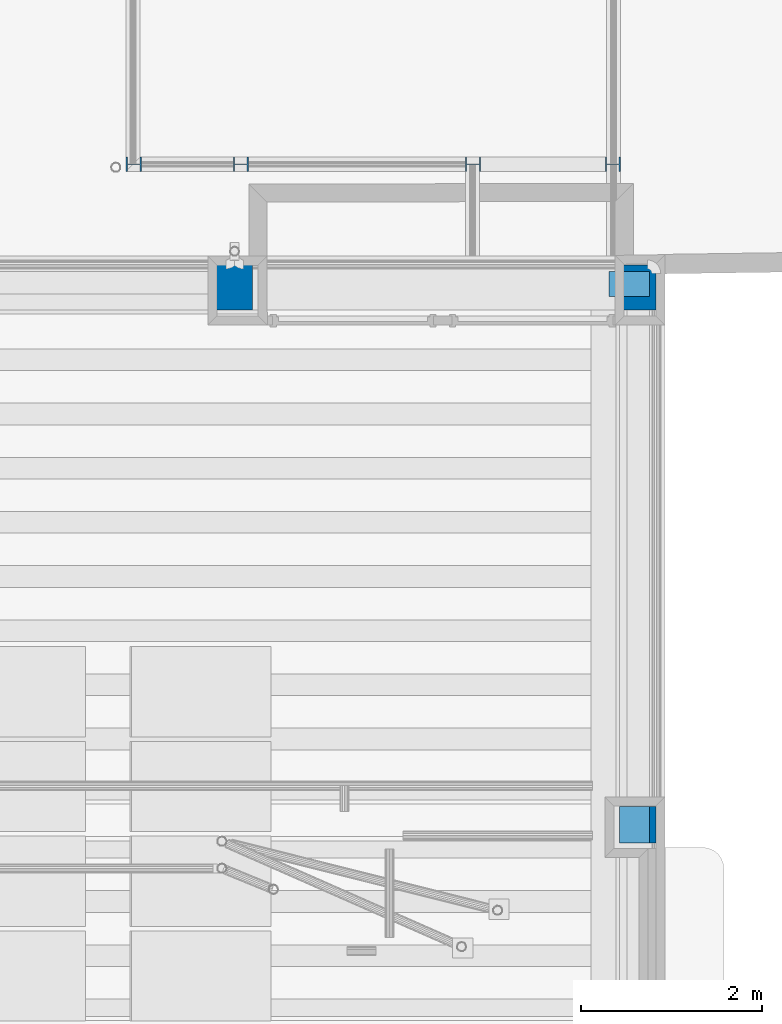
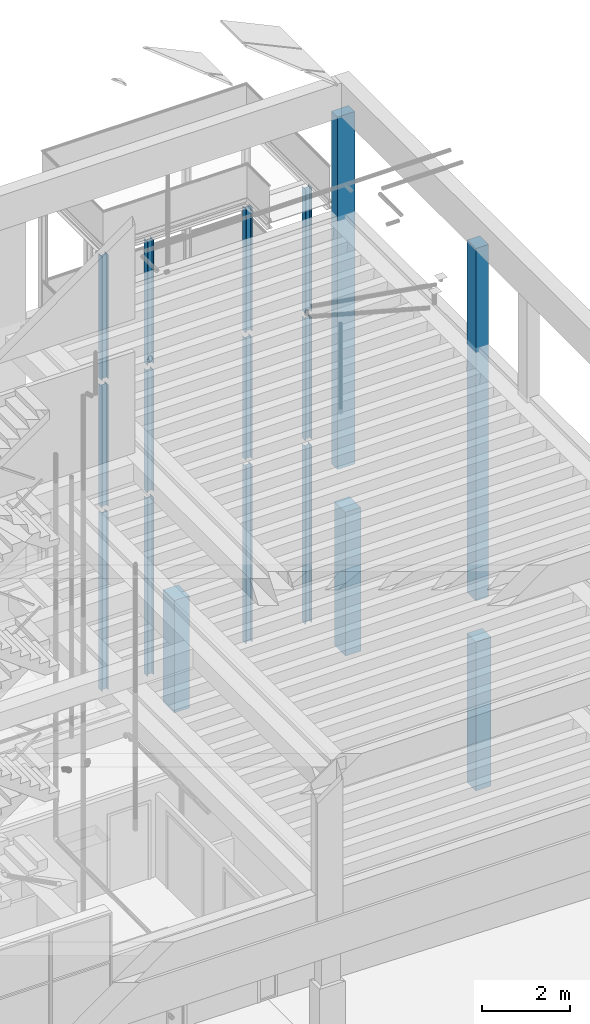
# One storey, part 2 of 106: 17 columns.
"""IFC2X3 building model written with IfcOpenShell, lengths in metres."""

from ifc_helpers import new_model, entity, si_unit, converted_unit, derived_unit, money_unit, direction, frame, frame_2d, origin_with_axes, place, context, subcontext, project, spatial, polyline, rectangle, outline, extrude, material, type_object, element, save


model = new_model("IFC2X3")

# Units and contexts
model_context = context("Model", 3, precision=1e-05, world=origin_with_axes(), true_north=direction((0.0, 1.0)))
body_context = subcontext(model_context, "Body", "Model", "MODEL_VIEW", scale=1.0)
ifc_project = project(units=[si_unit("LENGTHUNIT", "METRE"), si_unit("AREAUNIT", "SQUARE_METRE"), si_unit("VOLUMEUNIT", "CUBIC_METRE"), si_unit("ABSORBEDDOSEUNIT", "GRAY"), si_unit("AMOUNTOFSUBSTANCEUNIT", "MOLE"), si_unit("DOSEEQUIVALENTUNIT", "SIEVERT"), si_unit("ELECTRICCAPACITANCEUNIT", "FARAD"), si_unit("ELECTRICCHARGEUNIT", "COULOMB"), si_unit("ELECTRICCONDUCTANCEUNIT", "SIEMENS"), si_unit("ELECTRICCURRENTUNIT", "AMPERE"), si_unit("ELECTRICRESISTANCEUNIT", "OHM"), si_unit("ELECTRICVOLTAGEUNIT", "VOLT"), si_unit("ENERGYUNIT", "JOULE"), si_unit("FORCEUNIT", "NEWTON"), si_unit("FREQUENCYUNIT", "HERTZ"), si_unit("ILLUMINANCEUNIT", "LUX"), si_unit("INDUCTANCEUNIT", "HENRY"), si_unit("LUMINOUSFLUXUNIT", "LUMEN"), si_unit("LUMINOUSINTENSITYUNIT", "CANDELA"), si_unit("MAGNETICFLUXDENSITYUNIT", "TESLA"), si_unit("MAGNETICFLUXUNIT", "WEBER"), si_unit("MASSUNIT", "GRAM"), converted_unit("PLANEANGLEUNIT", "degree", entity("IfcReal", 0.0174532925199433), si_unit("PLANEANGLEUNIT", "RADIAN"), dimensions=[0, 0, 0, 0, 0, 0, 0]), si_unit("POWERUNIT", "WATT"), si_unit("PRESSUREUNIT", "PASCAL"), si_unit("RADIOACTIVITYUNIT", "BECQUEREL"), si_unit("SOLIDANGLEUNIT", "STERADIAN"), si_unit("THERMODYNAMICTEMPERATUREUNIT", "KELVIN"), si_unit("TIMEUNIT", "SECOND"), derived_unit("ACCELERATIONUNIT", [(si_unit("LENGTHUNIT", "METRE"), 1), (si_unit("TIMEUNIT", "SECOND"), -2)]), derived_unit("ANGULARVELOCITYUNIT", [(converted_unit("PLANEANGLEUNIT", "degree", entity("IfcReal", 0.0174532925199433), si_unit("PLANEANGLEUNIT", "RADIAN"), dimensions=[0, 0, 0, 0, 0, 0, 0]), 1), (si_unit("TIMEUNIT", "SECOND"), -1)]), derived_unit("CURVATUREUNIT", [(converted_unit("PLANEANGLEUNIT", "degree", entity("IfcReal", 0.0174532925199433), si_unit("PLANEANGLEUNIT", "RADIAN"), dimensions=[0, 0, 0, 0, 0, 0, 0]), 1), (si_unit("LENGTHUNIT", "METRE"), -1)]), derived_unit("DYNAMICVISCOSITYUNIT", [(si_unit("PRESSUREUNIT", "PASCAL"), 1), (si_unit("TIMEUNIT", "SECOND"), 1)]), derived_unit("HEATFLUXDENSITYUNIT", [(si_unit("POWERUNIT", "WATT"), 1), (si_unit("LENGTHUNIT", "METRE"), -2)]), derived_unit("HEATINGVALUEUNIT", [(si_unit("ENERGYUNIT", "JOULE"), 1), (si_unit("MASSUNIT", "GRAM"), -1)]), derived_unit("INTEGERCOUNTRATEUNIT", [(si_unit("TIMEUNIT", "SECOND"), -1)]), derived_unit("IONCONCENTRATIONUNIT", [(si_unit("MASSUNIT", "GRAM"), 1), (si_unit("VOLUMEUNIT", "CUBIC_METRE"), -1)]), derived_unit("ISOTHERMALMOISTURECAPACITYUNIT", [(si_unit("VOLUMEUNIT", "CUBIC_METRE"), 1), (si_unit("MASSUNIT", "GRAM"), -1)]), derived_unit("KINEMATICVISCOSITYUNIT", [(si_unit("AREAUNIT", "SQUARE_METRE"), 1), (si_unit("TIMEUNIT", "SECOND"), -1)]), derived_unit("LINEARFORCEUNIT", [(si_unit("FORCEUNIT", "NEWTON"), 1), (si_unit("LENGTHUNIT", "METRE"), -1)]), derived_unit("LINEARMOMENTUNIT", [(si_unit("FORCEUNIT", "NEWTON"), 1), (si_unit("LENGTHUNIT", "METRE"), -1)]), derived_unit("LINEARSTIFFNESSUNIT", [(si_unit("FORCEUNIT", "NEWTON"), 1), (si_unit("LENGTHUNIT", "METRE"), -1)]), derived_unit("LINEARVELOCITYUNIT", [(si_unit("LENGTHUNIT", "METRE"), 1), (si_unit("TIMEUNIT", "SECOND"), -1)]), derived_unit("LUMINOUSINTENSITYDISTRIBUTIONUNIT", [(si_unit("LUMINOUSINTENSITYUNIT", "CANDELA"), 1), (si_unit("LUMINOUSFLUXUNIT", "LUMEN"), -1)]), derived_unit("MASSDENSITYUNIT", [(si_unit("MASSUNIT", "GRAM"), 1), (si_unit("VOLUMEUNIT", "CUBIC_METRE"), -1)]), derived_unit("MASSFLOWRATEUNIT", [(si_unit("MASSUNIT", "GRAM"), 1), (si_unit("TIMEUNIT", "SECOND"), -1)]), derived_unit("MASSPERLENGTHUNIT", [(si_unit("MASSUNIT", "GRAM"), 1), (si_unit("LENGTHUNIT", "METRE"), -1)]), derived_unit("MODULUSOFELASTICITYUNIT", [(si_unit("FORCEUNIT", "NEWTON"), 1), (si_unit("AREAUNIT", "SQUARE_METRE"), -1)]), derived_unit("MODULUSOFLINEARSUBGRADEREACTIONUNIT", [(si_unit("FORCEUNIT", "NEWTON"), 1), (si_unit("LENGTHUNIT", "METRE"), -2)]), derived_unit("MODULUSOFROTATIONALSUBGRADEREACTIONUNIT", [(si_unit("FORCEUNIT", "NEWTON"), 1), (si_unit("LENGTHUNIT", "METRE"), 1)]), derived_unit("MODULUSOFSUBGRADEREACTIONUNIT", [(si_unit("FORCEUNIT", "NEWTON"), 1), (si_unit("VOLUMEUNIT", "CUBIC_METRE"), -1)]), derived_unit("MOISTUREDIFFUSIVITYUNIT", [(si_unit("VOLUMEUNIT", "CUBIC_METRE"), 1), (si_unit("TIMEUNIT", "SECOND"), -1)]), derived_unit("MOLECULARWEIGHTUNIT", [(si_unit("MASSUNIT", "GRAM"), 1), (si_unit("AMOUNTOFSUBSTANCEUNIT", "MOLE"), -1)]), derived_unit("PLANARFORCEUNIT", [(si_unit("FORCEUNIT", "NEWTON"), 1), (si_unit("LENGTHUNIT", "METRE"), -2)]), derived_unit("ROTATIONALFREQUENCYUNIT", [(si_unit("TIMEUNIT", "SECOND"), -1)]), derived_unit("ROTATIONALMASSUNIT", [(si_unit("MASSUNIT", "GRAM"), 1), (si_unit("LENGTHUNIT", "METRE"), 2)]), derived_unit("ROTATIONALSTIFFNESSUNIT", [(si_unit("FORCEUNIT", "NEWTON"), 1), (si_unit("LENGTHUNIT", "METRE"), 1), (converted_unit("PLANEANGLEUNIT", "degree", entity("IfcReal", 0.0174532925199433), si_unit("PLANEANGLEUNIT", "RADIAN"), dimensions=[0, 0, 0, 0, 0, 0, 0]), -1)]), derived_unit("SECTIONAREAINTEGRALUNIT", [(si_unit("LENGTHUNIT", "METRE"), 5)]), derived_unit("SECTIONMODULUSUNIT", [(si_unit("LENGTHUNIT", "METRE"), 3)]), derived_unit("SHEARMODULUSUNIT", [(si_unit("FORCEUNIT", "NEWTON"), 1), (si_unit("AREAUNIT", "SQUARE_METRE"), -1)]), derived_unit("SOUNDPOWERUNIT", [(si_unit("ENERGYUNIT", "JOULE"), 1), (si_unit("TIMEUNIT", "SECOND"), -1)]), derived_unit("SPECIFICHEATCAPACITYUNIT", [(si_unit("FORCEUNIT", "NEWTON"), 1), (si_unit("MASSUNIT", "GRAM"), -1), (si_unit("THERMODYNAMICTEMPERATUREUNIT", "KELVIN"), -1)]), derived_unit("TEMPERATUREGRADIENTUNIT", [(si_unit("THERMODYNAMICTEMPERATUREUNIT", "KELVIN"), 1), (si_unit("LENGTHUNIT", "METRE"), -1)]), derived_unit("THERMALADMITTANCEUNIT", [(si_unit("POWERUNIT", "WATT"), 1), (si_unit("AREAUNIT", "SQUARE_METRE"), -1), (si_unit("THERMODYNAMICTEMPERATUREUNIT", "KELVIN"), -1)]), derived_unit("THERMALCONDUCTANCEUNIT", [(si_unit("POWERUNIT", "WATT"), 1), (si_unit("LENGTHUNIT", "METRE"), -1), (si_unit("THERMODYNAMICTEMPERATUREUNIT", "KELVIN"), -1)]), derived_unit("THERMALEXPANSIONCOEFFICIENTUNIT", [(si_unit("THERMODYNAMICTEMPERATUREUNIT", "KELVIN"), -1)]), derived_unit("THERMALRESISTANCEUNIT", [(si_unit("AREAUNIT", "SQUARE_METRE"), 1), (si_unit("POWERUNIT", "WATT"), -1)]), derived_unit("THERMALTRANSMITTANCEUNIT", [(si_unit("POWERUNIT", "WATT"), 1), (si_unit("AREAUNIT", "SQUARE_METRE"), -1), (si_unit("THERMODYNAMICTEMPERATUREUNIT", "KELVIN"), -1)]), derived_unit("TORQUEUNIT", [(si_unit("FORCEUNIT", "NEWTON"), 1), (si_unit("LENGTHUNIT", "METRE"), 1)]), derived_unit("VAPORPERMEABILITYUNIT", [(si_unit("MASSUNIT", "GRAM"), 1), (si_unit("TIMEUNIT", "SECOND"), -1)]), derived_unit("VOLUMETRICFLOWRATEUNIT", [(si_unit("VOLUMEUNIT", "CUBIC_METRE"), 1), (si_unit("TIMEUNIT", "SECOND"), -1)]), derived_unit("WARPINGCONSTANTUNIT", [(si_unit("LENGTHUNIT", "METRE"), 6)]), derived_unit("WARPINGMOMENTUNIT", [(si_unit("FORCEUNIT", "NEWTON"), 1), (si_unit("LENGTHUNIT", "METRE"), 2)]), money_unit("GBP")], contexts=[model_context])

# Site, building, storey
site_placement = place(None, origin_with_axes())
site = spatial("IfcSite", under=ifc_project, at=site_placement, Name="Site", CompositionType="ELEMENT")
building_placement = place(site_placement, origin_with_axes())
building = spatial("IfcBuilding", under=site, at=building_placement, Name="Building01", CompositionType="ELEMENT")
storey_placement = place(building_placement, origin_with_axes())
storey = spatial("IfcBuildingStorey", under=building, at=storey_placement, Name="GF", CompositionType="ELEMENT", Elevation=0.0)

# Columns
ifc_material_1 = material(Name="A_BSUK_Columns_Steel")
column_type_1 = type_object("IfcColumnType", Name="A-Columns-Steel", PredefinedType="COLUMN")
for number, where, z_axis, x_axis, name in (
    (1, (26.490035, 15.837181, 0.0), (0.0, 0.0, 1.0), (0.0, 1.0, 0.0), "column"),
    (2, (24.940035, 15.837181, 0.0), (0.0, 0.0, 1.0), (0.0, 1.0, 0.0), "column"),
    (3, (22.370035, 15.837181, 0.0), (0.0, 0.0, 1.0), (0.0, 1.0, 0.0), "column"),
    (4, (21.181634, 15.837181, 0.0), (0.0, 0.0, 1.0), (0.0, 1.0, 0.0), "column"),
):
    element("IfcColumn", number, at=place(storey_placement, frame(where, z_axis=z_axis, x_axis=x_axis)), inside=storey, type_object=column_type_1, material=ifc_material_1, Name=name, ObjectType="A-Columns-Steel", context=body_context, shape_type="SweptSolid", body=[
        extrude(outline(polyline([(0.1574, 0.0), (0.1574, 0.0157), (0.0842, 0.0157), (0.0842, 0.1545), (0.1574, 0.1545), (0.1574, 0.1702), (0.0, 0.1702), (0.0, 0.1545), (0.0732, 0.1545), (0.0732, 0.0157), (0.0, 0.0157), (0.0, 0.0), (0.1574, 0.0)])), origin_with_axes(), (0.0, 0.0, 1.0), 4.894),
    ])
for number, where, z_axis, x_axis, name in (
    (5, (26.490035, 15.837181, 5.064467), (0.0, 0.0, 1.0), (0.0, 1.0, 0.0), "column"),
    (6, (24.940035, 15.837181, 5.064467), (0.0, 0.0, 1.0), (0.0, 1.0, 0.0), "column"),
    (7, (22.370035, 15.837181, 5.064467), (0.0, 0.0, 1.0), (0.0, 1.0, 0.0), "column"),
    (8, (21.181634, 15.837181, 5.064467), (0.0, 0.0, 1.0), (0.0, 1.0, 0.0), "column"),
):
    element("IfcColumn", number, at=place(storey_placement, frame(where, z_axis=z_axis, x_axis=x_axis)), inside=storey, type_object=column_type_1, material=ifc_material_1, Name=name, ObjectType="A-Columns-Steel", context=body_context, shape_type="SweptSolid", body=[
        extrude(outline(polyline([(0.1574, 0.0), (0.1574, 0.0157), (0.0842, 0.0157), (0.0842, 0.1545), (0.1574, 0.1545), (0.1574, 0.1702), (0.0, 0.1702), (0.0, 0.1545), (0.0732, 0.1545), (0.0732, 0.0157), (0.0, 0.0157), (0.0, 0.0), (0.1574, 0.0)])), origin_with_axes(), (0.0, 0.0, 1.0), 3.353),
    ])
for number, where, z_axis, x_axis, name in (
    (9, (21.181634, 15.837181, 8.587442), (0.0, 0.0, 1.0), (0.0, 1.0, 0.0), "column"),
    (10, (22.370035, 15.837181, 8.587442), (0.0, 0.0, 1.0), (0.0, 1.0, 0.0), "column"),
    (11, (24.940035, 15.837181, 8.587442), (0.0, 0.0, 1.0), (0.0, 1.0, 0.0), "column"),
    (12, (26.490035, 15.837181, 8.587442), (0.0, 0.0, 1.0), (0.0, 1.0, 0.0), "column"),
):
    element("IfcColumn", number, at=place(storey_placement, frame(where, z_axis=z_axis, x_axis=x_axis)), inside=storey, type_object=column_type_1, material=ifc_material_1, Name=name, ObjectType="A-Columns-Steel", context=body_context, shape_type="SweptSolid", body=[
        extrude(outline(polyline([(0.1574, 0.0), (0.1574, 0.0157), (0.0842, 0.0157), (0.0842, 0.1545), (0.1574, 0.1545), (0.1574, 0.1702), (0.0, 0.1702), (0.0, 0.1545), (0.0732, 0.1545), (0.0732, 0.0157), (0.0, 0.0157), (0.0, 0.0), (0.1574, 0.0)])), origin_with_axes(), (0.0, 0.0, 1.0), 3.413),
    ])
ifc_material_2 = material(Name="A_BSUK_Columns_ReinforcedConcrete")
column_type_2 = type_object("IfcColumnType", Name="A-Columns-Concrete", PredefinedType="COLUMN")
column_1_placement = place(storey_placement, frame((26.48, 8.4, -0.145), z_axis=(0.0, 0.0, 1.0), x_axis=(1.0, 0.0, 0.0)))
element("IfcColumn", 13, at=column_1_placement, inside=storey, type_object=column_type_2, material=ifc_material_2, Name="A-Columns-Concrete", ObjectType="A-Columns-Concrete", context=body_context, shape_type="SweptSolid", body=[
    extrude(rectangle(XDim=0.4, YDim=0.4, at=frame_2d((0.2, 0.2), x_axis=(0.0, 1.0))), origin_with_axes(), (0.0, 0.0, 1.0), 4.115),
])
column_2_placement = place(storey_placement, frame((26.81, 14.45, 14.83), z_axis=(0.0, 0.0, -1.0), x_axis=(0.0, 1.0, 0.0)))
element("IfcColumn", 14, at=column_2_placement, inside=storey, type_object=column_type_2, material=ifc_material_2, Name="A-Columns-Concrete", ObjectType="A-Columns-Concrete", context=body_context, shape_type="SweptSolid", body=[
    extrude(rectangle(XDim=0.45, YDim=0.28, at=frame_2d((0.14, -0.225), x_axis=(0.0, -1.0))), origin_with_axes(), (0.0, 0.0, 1.0), 9.73),
])
column_3_placement = place(storey_placement, frame((26.48, 14.3, 0.0), z_axis=(0.0, 0.0, 1.0), x_axis=(1.0, 0.0, 0.0)))
element("IfcColumn", 15, at=column_3_placement, inside=storey, type_object=column_type_2, material=ifc_material_2, Name="A-Columns-Concrete", ObjectType="A-Columns-Concrete", context=body_context, shape_type="SweptSolid", body=[
    extrude(rectangle(XDim=0.5, YDim=0.4, at=frame_2d((0.2, 0.25), x_axis=(0.0, 1.0))), origin_with_axes(), (0.0, 0.0, 1.0), 3.97),
])
column_4_placement = place(storey_placement, frame((22.01, 14.3, 0.0), z_axis=(0.0, 0.0, 1.0), x_axis=(1.0, 0.0, 0.0)))
element("IfcColumn", 16, at=column_4_placement, inside=storey, type_object=column_type_2, material=ifc_material_2, Name="A-Columns-Concrete", ObjectType="A-Columns-Concrete", context=body_context, shape_type="SweptSolid", body=[
    extrude(rectangle(XDim=0.5, YDim=0.4, at=frame_2d((0.2, 0.25), x_axis=(0.0, 1.0))), origin_with_axes(), (0.0, 0.0, 1.0), 3.1),
])
column_5_placement = place(storey_placement, frame((26.48, 8.4, 5.1), z_axis=(0.0, 0.0, 1.0), x_axis=(1.0, 0.0, 0.0)))
element("IfcColumn", 17, at=column_5_placement, inside=storey, type_object=column_type_2, material=ifc_material_2, Name="A-Columns-Concrete", ObjectType="A-Columns-Concrete", context=body_context, shape_type="SweptSolid", body=[
    extrude(rectangle(XDim=0.4, YDim=0.33, at=frame_2d((0.165, 0.2), x_axis=(0.0, 1.0))), origin_with_axes(), (0.0, 0.0, 1.0), 9.73),
])

save(model, "model.ifc")
